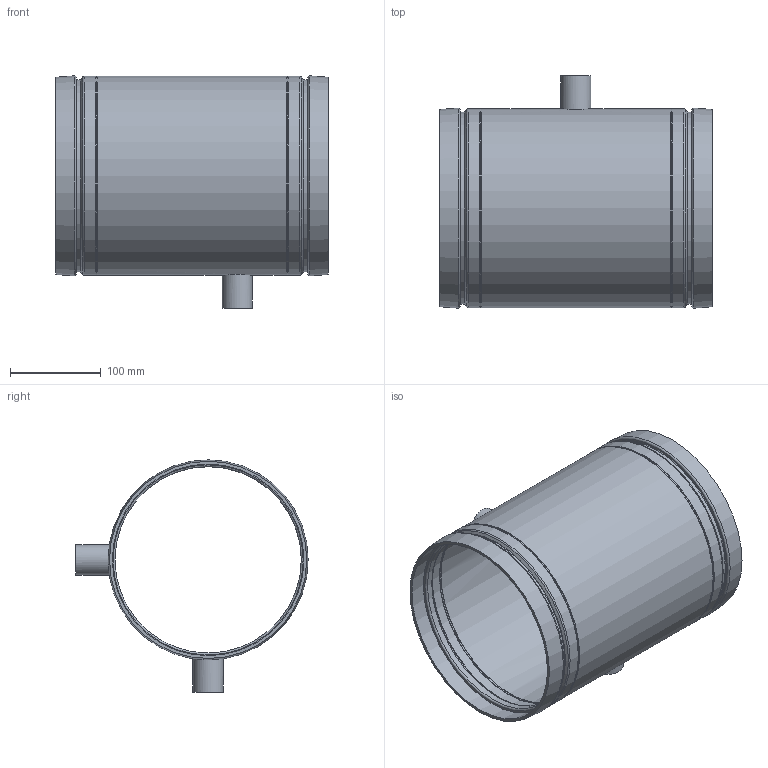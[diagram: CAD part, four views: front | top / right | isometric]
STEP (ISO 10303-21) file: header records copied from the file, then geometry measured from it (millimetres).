
FILE_DESCRIPTION(/* description */ ('VIC STRENGTHIN NIPPLE No E494I','CAx-IF Rec.Pracs.---Representation and Presentation of Product Manufacturing Information (PMI)---4.0---2014-10-13'),/* implementation_level */ '2;1');
FILE_NAME(/* name */ 'C:\ST100\STEP\Victaulic_SS-StrengThin 100_Nipple Instrumentation_No E494I (ST1)\Victaulic_SS-StrengThin 100_Nipple Instrumentation_No E494I (ST1)_8 (200).stp',/* time_stamp */ '2021-06-17T18:16:36+06:00',/* author */ ('kkamble'),/* organization */ ('Victaulic'),/* preprocessor_version */ 'ST-DEVELOPER v17.2',/* originating_system */ 'Autodesk Inventor 2019',/* authorisation */ '');
FILE_SCHEMA (('AP242_MANAGED_MODEL_BASED_3D_ENGINEERING_MIM_LF { 1 0 10303 442 1 1 4 }'));
Length unit declared in the file: inch
Products named in the file (1): E494I-08.0
Bounding box: 299.72 x 255.73 x 255.73 mm (x, y, z)
Volume: 673106.7 mm3; surface area: 436156.8 mm2
Topology: 1 solids, 1 shells, 60 faces, 196 edges, 146 vertices
Faces by surface type: torus 26, cylinder 16, plane 10, cone 8
Full cylindrical faces by diameter (mm): 21.336 x2, 26.67 x2, 33.401 x2, 205.105 x2, 211.201 x2, 212.979 x3, 219.075 x3
Entity records: 2720 total; most frequent: CARTESIAN_POINT 620, DIRECTION 500, ORIENTED_EDGE 392, AXIS2_PLACEMENT_3D 238, EDGE_CURVE 196, CIRCLE 164, VERTEX_POINT 146, EDGE_LOOP 74
